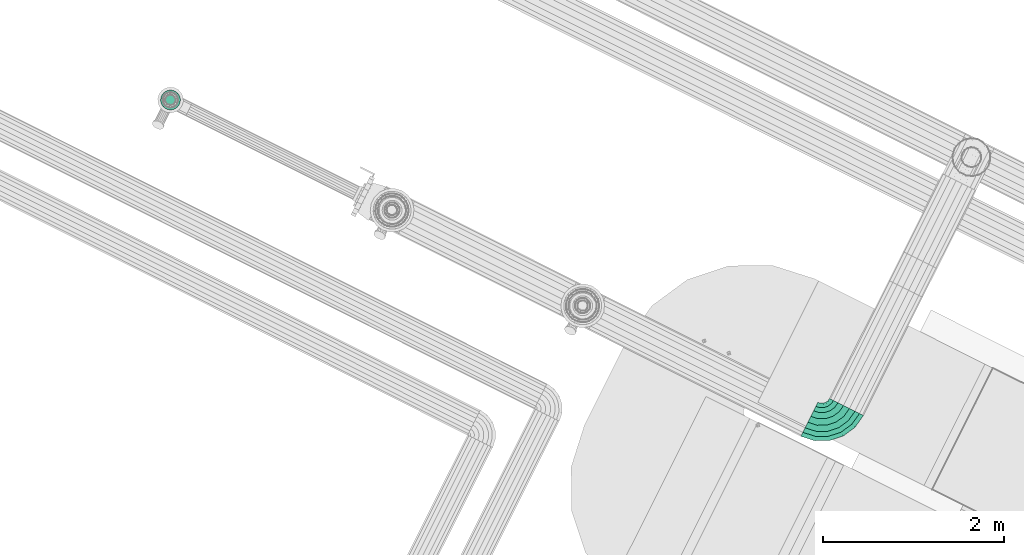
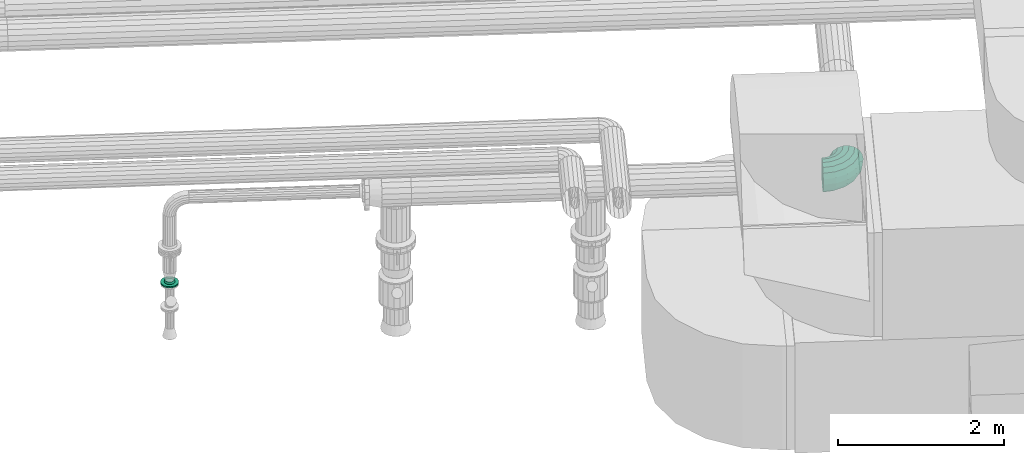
# One storey, part 64 of 152: 1 flow fitting, 1 flow segment.
"""IFC2X3 building model written with IfcOpenShell, lengths in metres."""

from ifc_helpers import new_model, si_unit, derived_unit, direction, frame, origin, place, context, subcontext, project, spatial, face_set, surface_model, source, transform, mapped, material, type_object, type_shapes, element, save


model = new_model("IFC2X3")

# Units and contexts
model_context = context("Model", 3, precision=5.2338327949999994e-05, world=origin(), true_north=direction((0.0, 1.0)))
body_context = subcontext(model_context, "Body", "Model", "MODEL_VIEW")
ifc_project = project(units=[si_unit("LENGTHUNIT", "METRE"), si_unit("AREAUNIT", "SQUARE_METRE"), si_unit("VOLUMEUNIT", "CUBIC_METRE"), si_unit("MASSUNIT", "GRAM", prefix="KILO"), si_unit("PLANEANGLEUNIT", "RADIAN"), derived_unit("THERMALTRANSMITTANCEUNIT", [(si_unit("MASSUNIT", "GRAM", prefix="KILO"), 1), (si_unit("THERMODYNAMICTEMPERATUREUNIT", "KELVIN"), -1), (si_unit("TIMEUNIT", "SECOND"), -3)])], contexts=[model_context])

# Site, building, storey
site_placement = place(None, frame((0.0, 0.0, 0.0), z_axis=(0.0, 0.0, 1.0), x_axis=(0.8939966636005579, -0.4480736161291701, 0.0)))
site = spatial("IfcSite", under=ifc_project, at=site_placement, Name="Default", CompositionType="ELEMENT")
building_placement = place(site_placement, origin())
building = spatial("IfcBuilding", under=site, at=building_placement, CompositionType="ELEMENT")
storey_placement = place(building_placement, frame((0.0, 0.0, 2.7499999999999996)))
storey = spatial("IfcBuildingStorey", under=building, at=storey_placement, Name="1. Obergeschoss", CompositionType="ELEMENT", Elevation=2.7499999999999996)

# Flow fitting
ifc_material = material(Name="IfcSurfaceStyle #1741")
distribution_element_type_1 = type_object("IfcDistributionElementType", Name="Flansch 307813:Flansch 307813", material=ifc_material)
shared_shape_1 = source(origin(), body_context, "Body", "SurfaceModel", [
    surface_model("IfcFaceBasedSurfaceModel", [(20.35098007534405, 8.561283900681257, 3.863870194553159), (20.313357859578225, 8.554650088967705, 3.863870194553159), (20.313357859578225, 8.554650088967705, 3.8838701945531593), (20.35098007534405, 8.561283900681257, 3.8838701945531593), (20.28027343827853, 8.535548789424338, 3.863870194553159), (20.28027343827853, 8.535548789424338, 3.8838701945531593), (20.25571728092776, 8.50628390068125, 3.863870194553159), (20.25571728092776, 8.50628390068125, 3.8838701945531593), (20.242651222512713, 8.47038520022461, 3.863870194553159), (20.242651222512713, 8.47038520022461, 3.8838701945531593), (20.242651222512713, 8.432182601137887, 3.863870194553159), (20.242651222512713, 8.432182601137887, 3.8838701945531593), (20.25571728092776, 8.396283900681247, 3.863870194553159), (20.25571728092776, 8.396283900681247, 3.8838701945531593), (20.28027343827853, 8.36701901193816, 3.863870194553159), (20.28027343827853, 8.36701901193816, 3.8838701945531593), (20.31335785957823, 8.347917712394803, 3.863870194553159), (20.31335785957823, 8.347917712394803, 3.8838701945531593), (20.350980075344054, 8.341283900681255, 3.863870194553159), (20.350980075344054, 8.341283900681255, 3.8838701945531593), (20.38860229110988, 8.347917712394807, 3.863870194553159), (20.38860229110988, 8.347917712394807, 3.8838701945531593), (20.421686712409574, 8.36701901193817, 3.863870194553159), (20.421686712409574, 8.36701901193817, 3.8838701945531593), (20.446242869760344, 8.396283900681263, 3.863870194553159), (20.446242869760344, 8.396283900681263, 3.8838701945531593), (20.45930892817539, 8.432182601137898, 3.863870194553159), (20.45930892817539, 8.432182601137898, 3.8838701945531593), (20.45930892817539, 8.470385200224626, 3.863870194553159), (20.45930892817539, 8.470385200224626, 3.8838701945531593), (20.446242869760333, 8.506283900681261, 3.863870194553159), (20.446242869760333, 8.506283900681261, 3.8838701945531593), (20.42168671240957, 8.535548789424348, 3.863870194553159), (20.42168671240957, 8.535548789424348, 3.8838701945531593), (20.388602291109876, 8.554650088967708, 3.863870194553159), (20.388602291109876, 8.554650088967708, 3.8838701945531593), (20.35098007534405, 8.451283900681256, 3.8838701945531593), (20.285480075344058, 8.45128390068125, 3.883870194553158), (20.28943020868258, 8.428881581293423, 3.883870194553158), (20.297276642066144, 8.43173744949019, 3.915870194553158), (20.293830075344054, 8.451283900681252, 3.915870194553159), (20.30080416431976, 8.409181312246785, 3.8838701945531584), (20.3072006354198, 8.414548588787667, 3.9158701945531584), (20.318230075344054, 8.39455923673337, 3.8838701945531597), (20.322405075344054, 8.40179054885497, 3.9158701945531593), (20.33960611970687, 8.38677899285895, 3.8838701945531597), (20.341056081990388, 8.395002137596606, 3.9158701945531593), (20.362354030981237, 8.386778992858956, 3.8838701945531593), (20.360904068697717, 8.39500213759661, 3.915870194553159), (20.38373007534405, 8.394559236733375, 3.8838701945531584), (20.379555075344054, 8.401790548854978, 3.9158701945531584), (20.401155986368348, 8.409181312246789, 3.8838701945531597), (20.394759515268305, 8.41454858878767, 3.9158701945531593), (20.41252994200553, 8.428881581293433, 3.883870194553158), (20.404683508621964, 8.4317374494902, 3.915870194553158), (20.41648007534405, 8.451283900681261, 3.8838701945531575), (20.408130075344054, 8.451283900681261, 3.915870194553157), (20.41252994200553, 8.47368622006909, 3.8838701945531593), (20.404683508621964, 8.470830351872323, 3.915870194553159), (20.401155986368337, 8.493386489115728, 3.8838701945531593), (20.394759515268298, 8.488019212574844, 3.915870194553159), (20.383730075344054, 8.508008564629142, 3.8838701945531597), (20.37955507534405, 8.50077725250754, 3.9158701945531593), (20.362354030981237, 8.515788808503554, 3.8838701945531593), (20.360904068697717, 8.507565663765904, 3.915870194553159), (20.33960611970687, 8.515788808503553, 3.8838701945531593), (20.341056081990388, 8.507565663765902, 3.915870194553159), (20.318230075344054, 8.508008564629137, 3.8838701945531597), (20.322405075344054, 8.500777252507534, 3.9158701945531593), (20.30080416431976, 8.49338648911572, 3.8838701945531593), (20.3072006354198, 8.488019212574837, 3.915870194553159), (20.289430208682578, 8.473686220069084, 3.8838701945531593), (20.29727664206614, 8.470830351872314, 3.915870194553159)], [face_set([[[0, 1, 2, 3]], [[1, 4, 5, 2]], [[4, 6, 7, 5]], [[6, 8, 9, 7]], [[8, 10, 11, 9]], [[10, 12, 13, 11]], [[12, 14, 15, 13]], [[14, 16, 17, 15]], [[16, 18, 19, 17]], [[18, 20, 21, 19]], [[20, 22, 23, 21]], [[22, 24, 25, 23]], [[24, 26, 27, 25]], [[26, 28, 29, 27]], [[28, 30, 31, 29]], [[30, 32, 33, 31]], [[32, 34, 35, 33]], [[34, 0, 3, 35]], [[36, 35, 3]], [[36, 33, 35]], [[36, 31, 33]], [[36, 29, 31]], [[36, 27, 29]], [[36, 25, 27]], [[36, 23, 25]], [[36, 21, 23]], [[36, 19, 21]], [[36, 17, 19]], [[36, 15, 17]], [[36, 13, 15]], [[36, 11, 13]], [[36, 9, 11]], [[36, 7, 9]], [[36, 5, 7]], [[36, 2, 5]], [[36, 3, 2]], [[37, 38, 39, 40]], [[38, 41, 42, 39]], [[41, 43, 44, 42]], [[43, 45, 46, 44]], [[45, 47, 48, 46]], [[47, 49, 50, 48]], [[49, 51, 52, 50]], [[51, 53, 54, 52]], [[53, 55, 56, 54]], [[55, 57, 58, 56]], [[57, 59, 60, 58]], [[59, 61, 62, 60]], [[61, 63, 64, 62]], [[63, 65, 66, 64]], [[65, 67, 68, 66]], [[67, 69, 70, 68]], [[69, 71, 72, 70]], [[71, 37, 40, 72]]])]),
])
type_shapes(distribution_element_type_1, [shared_shape_1])
flow_fitting_placement = place(storey_placement, frame((0.0, 0.0, -2.7499999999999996)))
element("IfcFlowFitting", 1, at=flow_fitting_placement, inside=storey, type_object=distribution_element_type_1, material=ifc_material, Name="Flansch", ObjectType="Flansch", context=body_context, shape_type="MappedRepresentation", body=[
    mapped(shared_shape_1, transform((0.0, 0.0, 0.0), scale=1.0)),
])

# Flow segment
distribution_element_type_2 = type_object("IfcDistributionElementType", Name="Rohrbogen 614720:Rohrbogen 614720", material=ifc_material)
shared_shape_2 = source(origin(), body_context, "Body", "SurfaceModel", [
    surface_model("IfcFaceBasedSurfaceModel", [(28.655474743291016, 8.764715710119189, 5.122997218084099), (28.648868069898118, 8.764715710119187, 5.160465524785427), (28.628901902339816, 8.638654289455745, 5.160465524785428), (28.635185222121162, 8.636612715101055, 5.1229972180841), (28.570957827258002, 8.52493263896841, 5.160465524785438), (28.576302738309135, 8.52104933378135, 5.12299721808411), (28.48070781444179, 8.434682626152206, 5.160465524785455), (28.484591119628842, 8.42933771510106, 5.122997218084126), (28.366986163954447, 8.376738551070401, 5.160465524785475), (28.369027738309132, 8.370455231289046, 5.1229972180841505), (28.240924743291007, 8.35677238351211, 5.1604655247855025), (28.240924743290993, 8.350165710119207, 5.122997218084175), (28.629844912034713, 8.764715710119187, 5.193414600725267), (28.610809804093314, 8.644532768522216, 5.193414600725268), (28.55556776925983, 8.53611417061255, 5.193414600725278), (28.469526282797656, 8.450072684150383, 5.19341460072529), (28.36110768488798, 8.394830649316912, 5.193414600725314), (28.24092474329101, 8.375795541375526, 5.193414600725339), (28.600699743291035, 8.764715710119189, 5.217870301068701), (28.583091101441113, 8.653539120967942, 5.217870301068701), (28.53198883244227, 8.553245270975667, 5.217870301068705), (28.452395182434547, 8.47365162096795, 5.217870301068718), (28.352101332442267, 8.422549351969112, 5.217870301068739), (28.240924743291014, 8.404940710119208, 5.217870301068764), (28.564947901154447, 8.764715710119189, 5.230882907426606), (28.549089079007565, 8.664587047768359, 5.230882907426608), (28.503064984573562, 8.574259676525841, 5.230882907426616), (28.43138077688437, 8.50257546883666, 5.230882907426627), (28.34105340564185, 8.45655137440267, 5.230882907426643), (28.240924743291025, 8.440692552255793, 5.2308829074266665), (28.526901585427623, 8.76471571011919, 5.230882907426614), (28.512904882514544, 8.676344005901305, 5.230882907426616), (28.47228486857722, 8.596622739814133, 5.23088290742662), (28.409017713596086, 8.533355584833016, 5.230882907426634), (28.32929644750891, 8.49273557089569, 5.230882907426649), (28.240924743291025, 8.478738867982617, 5.230882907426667), (28.491149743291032, 8.764715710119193, 5.217870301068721), (28.478902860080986, 8.687391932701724, 5.217870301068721), (28.4433610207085, 8.617637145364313, 5.217870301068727), (28.388003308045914, 8.562279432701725, 5.2178703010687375), (28.318248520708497, 8.526737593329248, 5.217870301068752), (28.24092474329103, 8.514490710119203, 5.217870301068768), (28.462004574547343, 8.764715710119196, 5.193414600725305), (28.451184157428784, 8.696398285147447, 5.193414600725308), (28.41978208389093, 8.634768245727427, 5.193414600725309), (28.370872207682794, 8.585858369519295, 5.1934146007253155), (28.30924216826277, 8.554456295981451, 5.193414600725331), (28.240924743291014, 8.543635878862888, 5.193414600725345), (28.442981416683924, 8.764715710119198, 5.160465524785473), (28.43309205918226, 8.702276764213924, 5.160465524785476), (28.404392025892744, 8.645949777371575, 5.16046552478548), (28.359690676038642, 8.601248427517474, 5.160465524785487), (28.303363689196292, 8.572548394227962, 5.160465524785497), (28.24092474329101, 8.562659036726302, 5.16046552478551), (28.436374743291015, 8.764715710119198, 5.122997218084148), (28.4268087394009, 8.704318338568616, 5.12299721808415), (28.399047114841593, 8.64983308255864, 5.122997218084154), (28.355807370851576, 8.606593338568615, 5.122997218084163), (28.301322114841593, 8.578831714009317, 5.12299721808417), (28.240924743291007, 8.569265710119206, 5.122997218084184), (28.442981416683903, 8.764715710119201, 5.085528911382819), (28.43309205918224, 8.702276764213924, 5.085528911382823), (28.404392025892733, 8.645949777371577, 5.085528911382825), (28.359690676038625, 8.601248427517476, 5.085528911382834), (28.303363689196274, 8.572548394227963, 5.085528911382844), (28.240924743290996, 8.562659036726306, 5.085528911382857), (28.46200457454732, 8.764715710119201, 5.052579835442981), (28.45118415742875, 8.696398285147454, 5.052579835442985), (28.419782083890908, 8.634768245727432, 5.052579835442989), (28.37087220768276, 8.585858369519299, 5.0525798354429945), (28.309242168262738, 8.554456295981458, 5.052579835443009), (28.24092474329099, 8.543635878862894, 5.052579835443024), (28.49114974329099, 8.764715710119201, 5.028124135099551), (28.478902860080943, 8.687391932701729, 5.028124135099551), (28.443361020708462, 8.617637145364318, 5.0281241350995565), (28.388003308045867, 8.562279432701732, 5.028124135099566), (28.318248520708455, 8.526737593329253, 5.02812413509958), (28.240924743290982, 8.514490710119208, 5.028124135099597), (28.526901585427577, 8.764715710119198, 5.015111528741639), (28.512904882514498, 8.676344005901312, 5.015111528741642), (28.472284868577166, 8.59662273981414, 5.015111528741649), (28.40901771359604, 8.533355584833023, 5.01511152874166), (28.329296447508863, 8.492735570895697, 5.015111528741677), (28.24092474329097, 8.478738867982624, 5.015111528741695), (28.564947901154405, 8.764715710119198, 5.0151115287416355), (28.549089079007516, 8.664587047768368, 5.0151115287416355), (28.50306498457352, 8.57425967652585, 5.015111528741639), (28.43138077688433, 8.502575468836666, 5.015111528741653), (28.341053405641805, 8.456551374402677, 5.015111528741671), (28.24092474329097, 8.4406925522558, 5.015111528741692), (28.600699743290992, 8.764715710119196, 5.0281241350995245), (28.58309110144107, 8.653539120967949, 5.028124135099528), (28.53198883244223, 8.553245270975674, 5.028124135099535), (28.452395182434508, 8.473651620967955, 5.028124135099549), (28.35210133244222, 8.422549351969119, 5.028124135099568), (28.24092474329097, 8.404940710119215, 5.028124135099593), (28.62984491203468, 8.764715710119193, 5.0525798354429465), (28.610809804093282, 8.644532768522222, 5.0525798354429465), (28.5555677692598, 8.536114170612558, 5.052579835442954), (28.469526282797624, 8.450072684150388, 5.052579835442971), (28.361107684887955, 8.394830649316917, 5.052579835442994), (28.240924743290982, 8.375795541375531, 5.052579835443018), (28.648868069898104, 8.76471571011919, 5.085528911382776), (28.6289019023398, 8.638654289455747, 5.085528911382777), (28.57095782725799, 8.52493263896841, 5.0855289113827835), (28.48070781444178, 8.434682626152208, 5.085528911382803), (28.36698616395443, 8.376738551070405, 5.085528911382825), (28.24092474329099, 8.356772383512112, 5.085528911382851), (28.75547474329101, 8.764715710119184, 5.1229972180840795), (28.742837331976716, 8.764715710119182, 5.194667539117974), (28.718271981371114, 8.609616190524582, 5.194667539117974), (28.730290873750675, 8.605711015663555, 5.1229972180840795), (28.64698055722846, 8.469698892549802, 5.194667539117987), (28.65720443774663, 8.462270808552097, 5.122997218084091), (28.535941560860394, 8.358659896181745, 5.194667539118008), (28.54336964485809, 8.348436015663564, 5.12299721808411), (28.39602426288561, 8.287368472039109, 5.194667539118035), (28.399929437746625, 8.27534957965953, 5.122997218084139), (28.24092474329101, 8.262803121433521, 5.1946675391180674), (28.24092474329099, 8.250165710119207, 5.122997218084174), (28.706449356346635, 8.764715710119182, 5.257693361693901), (28.683664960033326, 8.620860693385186, 5.257693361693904), (28.61754206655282, 8.491087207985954, 5.257693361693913), (28.514553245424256, 8.3880983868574, 5.257693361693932), (28.384779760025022, 8.321975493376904, 5.257693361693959), (28.240924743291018, 8.299191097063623, 5.257693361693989), (28.650699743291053, 8.764715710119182, 5.304472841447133), (28.630643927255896, 8.638088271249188, 5.304472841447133), (28.572439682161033, 8.523856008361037, 5.3044728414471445), (28.481784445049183, 8.433200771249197, 5.304472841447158), (28.367552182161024, 8.374996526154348, 5.304472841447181), (28.240924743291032, 8.354940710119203, 5.304472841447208), (28.582312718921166, 8.764715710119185, 5.329363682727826), (28.565604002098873, 8.659221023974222, 5.329363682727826), (28.517113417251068, 8.564052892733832, 5.329363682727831), (28.441587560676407, 8.488527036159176, 5.329363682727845), (28.346419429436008, 8.440036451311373, 5.329363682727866), (28.240924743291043, 8.423327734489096, 5.3293636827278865), (28.509536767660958, 8.764715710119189, 5.329363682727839), (28.49638995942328, 8.681710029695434, 5.329363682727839), (28.45823643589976, 8.606829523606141, 5.329363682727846), (28.398810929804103, 8.547404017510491, 5.329363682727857), (28.32393042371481, 8.509250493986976, 5.329363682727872), (28.240924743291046, 8.496103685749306, 5.329363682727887), (28.441149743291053, 8.764715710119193, 5.304472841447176), (28.431350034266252, 8.70284278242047, 5.304472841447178), (28.402910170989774, 8.647026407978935, 5.304472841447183), (28.35861404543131, 8.602730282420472, 5.304472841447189), (28.302797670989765, 8.574290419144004, 5.3044728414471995), (28.240924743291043, 8.564490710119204, 5.304472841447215), (28.38540013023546, 8.764715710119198, 5.257693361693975), (28.37832900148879, 8.720070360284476, 5.257693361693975), (28.35780778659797, 8.679795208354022, 5.257693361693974), (28.325845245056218, 8.647832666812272, 5.257693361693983), (28.28557009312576, 8.627311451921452, 5.257693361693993), (28.240924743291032, 8.62024032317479, 5.257693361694), (28.34901215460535, 8.764715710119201, 5.194667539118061), (28.34372198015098, 8.731314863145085, 5.194667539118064), (28.3283692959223, 8.701183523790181, 5.194667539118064), (28.30445692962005, 8.677271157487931, 5.194667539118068), (28.27432559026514, 8.661918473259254, 5.194667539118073), (28.24092474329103, 8.656628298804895, 5.194667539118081), (28.336374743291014, 8.764715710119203, 5.12299721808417), (28.331703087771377, 8.735220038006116, 5.122997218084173), (28.3181454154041, 8.708611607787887, 5.122997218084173), (28.29702884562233, 8.687495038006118, 5.122997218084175), (28.2704204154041, 8.673937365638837, 5.122997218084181), (28.24092474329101, 8.669265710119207, 5.122997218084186), (28.349012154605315, 8.764715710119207, 5.051326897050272), (28.34372198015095, 8.731314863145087, 5.051326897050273), (28.328369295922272, 8.701183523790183, 5.0513268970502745), (28.30445692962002, 8.677271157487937, 5.05132689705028), (28.274325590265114, 8.66191847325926, 5.051326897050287), (28.24092474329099, 8.6566282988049, 5.051326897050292), (28.3854001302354, 8.764715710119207, 4.988301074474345), (28.37832900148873, 8.720070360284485, 4.988301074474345), (28.357807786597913, 8.679795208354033, 4.988301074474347), (28.325845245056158, 8.64783266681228, 4.988301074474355), (28.2855700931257, 8.62731145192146, 4.988301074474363), (28.240924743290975, 8.620240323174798, 4.9883010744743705), (28.44114974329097, 8.764715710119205, 4.941521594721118), (28.43135003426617, 8.702842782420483, 4.941521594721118), (28.402910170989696, 8.647026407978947, 4.941521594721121), (28.35861404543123, 8.602730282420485, 4.941521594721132), (28.302797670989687, 8.574290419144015, 4.9415215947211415), (28.240924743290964, 8.564490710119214, 4.941521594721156), (28.509536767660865, 8.764715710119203, 4.916630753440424), (28.496389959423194, 8.68171002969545, 4.916630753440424), (28.458236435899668, 8.606829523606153, 4.916630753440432), (28.39881092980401, 8.547404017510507, 4.916630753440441), (28.323930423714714, 8.50925049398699, 4.916630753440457), (28.240924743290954, 8.496103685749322, 4.916630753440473), (28.582312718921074, 8.764715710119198, 4.916630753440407), (28.565604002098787, 8.659221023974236, 4.9166307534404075), (28.51711341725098, 8.564052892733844, 4.916630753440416), (28.441587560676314, 8.488527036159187, 4.91663075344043), (28.346419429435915, 8.44003645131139, 4.916630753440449), (28.24092474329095, 8.423327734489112, 4.916630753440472), (28.650699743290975, 8.764715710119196, 4.94152159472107), (28.630643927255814, 8.638088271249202, 4.94152159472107), (28.572439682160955, 8.52385600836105, 4.941521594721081), (28.481784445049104, 8.433200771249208, 4.941521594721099), (28.367552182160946, 8.374996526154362, 4.941521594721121), (28.24092474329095, 8.354940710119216, 4.941521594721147), (28.70644935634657, 8.76471571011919, 4.98830107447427), (28.683664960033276, 8.620860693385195, 4.988301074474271), (28.61754206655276, 8.491087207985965, 4.988301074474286), (28.514553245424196, 8.388098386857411, 4.988301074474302), (28.38477976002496, 8.321975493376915, 4.988301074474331), (28.240924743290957, 8.29919109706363, 4.98830107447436), (28.74283733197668, 8.764715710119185, 5.051326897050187), (28.718271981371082, 8.609616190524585, 5.051326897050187), (28.646980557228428, 8.469698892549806, 5.051326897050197), (28.53594156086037, 8.358659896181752, 5.051326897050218), (28.39602426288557, 8.28736847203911, 5.051326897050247), (28.240924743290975, 8.262803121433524, 5.051326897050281)], [face_set([[[0, 1, 2, 3]], [[3, 2, 4, 5]], [[5, 4, 6, 7]], [[7, 6, 8, 9]], [[9, 8, 10, 11]], [[1, 12, 13, 2]], [[2, 13, 14, 4]], [[4, 14, 15, 6]], [[6, 15, 16, 8]], [[8, 16, 17, 10]], [[12, 18, 19, 13]], [[13, 19, 20, 14]], [[14, 20, 21, 15]], [[15, 21, 22, 16]], [[16, 22, 23, 17]], [[18, 24, 25, 19]], [[19, 25, 26, 20]], [[20, 26, 27, 21]], [[21, 27, 28, 22]], [[22, 28, 29, 23]], [[24, 30, 31, 25]], [[25, 31, 32, 26]], [[26, 32, 33, 27]], [[27, 33, 34, 28]], [[28, 34, 35, 29]], [[30, 36, 37, 31]], [[31, 37, 38, 32]], [[32, 38, 39, 33]], [[33, 39, 40, 34]], [[34, 40, 41, 35]], [[36, 42, 43, 37]], [[37, 43, 44, 38]], [[38, 44, 45, 39]], [[39, 45, 46, 40]], [[40, 46, 47, 41]], [[42, 48, 49, 43]], [[43, 49, 50, 44]], [[44, 50, 51, 45]], [[45, 51, 52, 46]], [[46, 52, 53, 47]], [[48, 54, 55, 49]], [[49, 55, 56, 50]], [[50, 56, 57, 51]], [[51, 57, 58, 52]], [[52, 58, 59, 53]], [[54, 60, 61, 55]], [[55, 61, 62, 56]], [[56, 62, 63, 57]], [[57, 63, 64, 58]], [[58, 64, 65, 59]], [[60, 66, 67, 61]], [[61, 67, 68, 62]], [[62, 68, 69, 63]], [[63, 69, 70, 64]], [[64, 70, 71, 65]], [[66, 72, 73, 67]], [[67, 73, 74, 68]], [[68, 74, 75, 69]], [[69, 75, 76, 70]], [[70, 76, 77, 71]], [[72, 78, 79, 73]], [[73, 79, 80, 74]], [[74, 80, 81, 75]], [[75, 81, 82, 76]], [[76, 82, 83, 77]], [[78, 84, 85, 79]], [[79, 85, 86, 80]], [[80, 86, 87, 81]], [[81, 87, 88, 82]], [[82, 88, 89, 83]], [[84, 90, 91, 85]], [[85, 91, 92, 86]], [[86, 92, 93, 87]], [[87, 93, 94, 88]], [[88, 94, 95, 89]], [[90, 96, 97, 91]], [[91, 97, 98, 92]], [[92, 98, 99, 93]], [[93, 99, 100, 94]], [[94, 100, 101, 95]], [[96, 102, 103, 97]], [[97, 103, 104, 98]], [[98, 104, 105, 99]], [[99, 105, 106, 100]], [[100, 106, 107, 101]], [[102, 0, 3, 103]], [[103, 3, 5, 104]], [[104, 5, 7, 105]], [[105, 7, 9, 106]], [[106, 9, 11, 107]], [[108, 109, 110, 111]], [[111, 110, 112, 113]], [[113, 112, 114, 115]], [[115, 114, 116, 117]], [[117, 116, 118, 119]], [[109, 120, 121, 110]], [[110, 121, 122, 112]], [[112, 122, 123, 114]], [[114, 123, 124, 116]], [[116, 124, 125, 118]], [[120, 126, 127, 121]], [[121, 127, 128, 122]], [[122, 128, 129, 123]], [[123, 129, 130, 124]], [[124, 130, 131, 125]], [[126, 132, 133, 127]], [[127, 133, 134, 128]], [[128, 134, 135, 129]], [[129, 135, 136, 130]], [[130, 136, 137, 131]], [[132, 138, 139, 133]], [[133, 139, 140, 134]], [[134, 140, 141, 135]], [[135, 141, 142, 136]], [[136, 142, 143, 137]], [[138, 144, 145, 139]], [[139, 145, 146, 140]], [[140, 146, 147, 141]], [[141, 147, 148, 142]], [[142, 148, 149, 143]], [[144, 150, 151, 145]], [[145, 151, 152, 146]], [[146, 152, 153, 147]], [[147, 153, 154, 148]], [[148, 154, 155, 149]], [[150, 156, 157, 151]], [[151, 157, 158, 152]], [[152, 158, 159, 153]], [[153, 159, 160, 154]], [[154, 160, 161, 155]], [[156, 162, 163, 157]], [[157, 163, 164, 158]], [[158, 164, 165, 159]], [[159, 165, 166, 160]], [[160, 166, 167, 161]], [[162, 168, 169, 163]], [[163, 169, 170, 164]], [[164, 170, 171, 165]], [[165, 171, 172, 166]], [[166, 172, 173, 167]], [[168, 174, 175, 169]], [[169, 175, 176, 170]], [[170, 176, 177, 171]], [[171, 177, 178, 172]], [[172, 178, 179, 173]], [[174, 180, 181, 175]], [[175, 181, 182, 176]], [[176, 182, 183, 177]], [[177, 183, 184, 178]], [[178, 184, 185, 179]], [[180, 186, 187, 181]], [[181, 187, 188, 182]], [[182, 188, 189, 183]], [[183, 189, 190, 184]], [[184, 190, 191, 185]], [[186, 192, 193, 187]], [[187, 193, 194, 188]], [[188, 194, 195, 189]], [[189, 195, 196, 190]], [[190, 196, 197, 191]], [[192, 198, 199, 193]], [[193, 199, 200, 194]], [[194, 200, 201, 195]], [[195, 201, 202, 196]], [[196, 202, 203, 197]], [[198, 204, 205, 199]], [[199, 205, 206, 200]], [[200, 206, 207, 201]], [[201, 207, 208, 202]], [[202, 208, 209, 203]], [[204, 210, 211, 205]], [[205, 211, 212, 206]], [[206, 212, 213, 207]], [[207, 213, 214, 208]], [[208, 214, 215, 209]], [[210, 108, 111, 211]], [[211, 111, 113, 212]], [[212, 113, 115, 213]], [[213, 115, 117, 214]], [[214, 117, 119, 215]]])]),
])
type_shapes(distribution_element_type_2, [shared_shape_2])
flow_segment_placement = place(storey_placement, frame((0.0, 0.0, -2.7499999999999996)))
element("IfcFlowSegment", 2, at=flow_segment_placement, inside=storey, type_object=distribution_element_type_2, material=ifc_material, Name="Rohrbogen", ObjectType="Rohrbogen", context=body_context, shape_type="MappedRepresentation", body=[
    mapped(shared_shape_2, transform((0.0, 0.0, 0.0), scale=1.0)),
])

save(model, "model.ifc")
